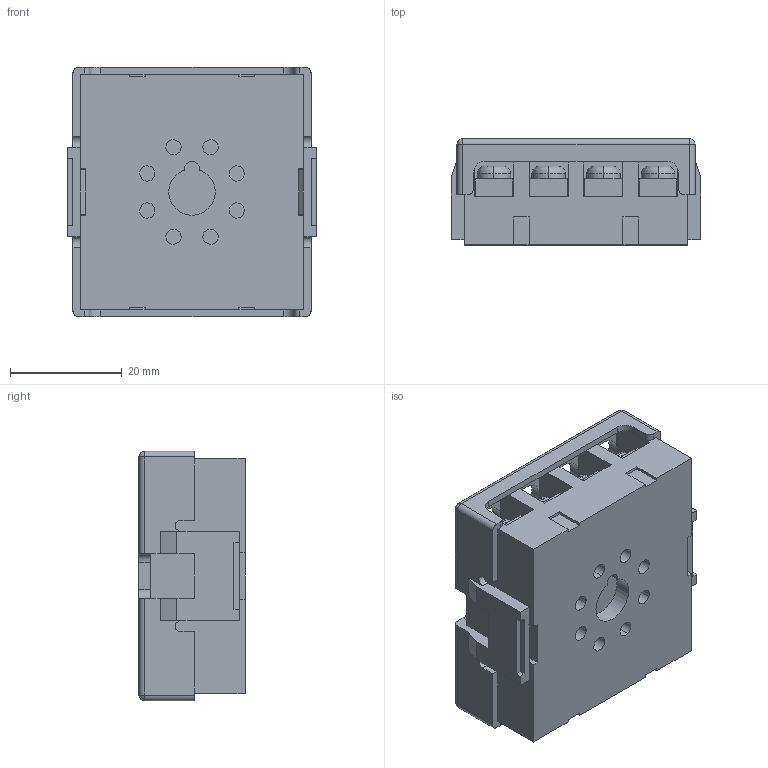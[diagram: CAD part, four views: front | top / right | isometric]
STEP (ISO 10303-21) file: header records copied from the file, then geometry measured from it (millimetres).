
FILE_DESCRIPTION (( 'STEP AP214' ), '1' );
FILE_NAME ('SR6P-M08G.STEP', '2020-08-19T04:49:23', ( '' ), ( '' ), 'SwSTEP 2.0', 'SolidWorks 2019', '' );
FILE_SCHEMA (( 'AUTOMOTIVE_DESIGN' ));
Length unit declared in the file: millimetre
Products named in the file (3): SR6P-M08G_蹬怮椔; SR6P-TERM-CV-8P_蹬怮椔; SR6P-M08G
Assembly tree (2 placements, depth 2):
  SR6P-M08G
    SR6P-M08G_蹬怮椔
    SR6P-TERM-CV-8P_蹬怮椔
Bounding box: 44.6 x 19 x 44.6 mm (x, y, z)
Volume: 30239.1 mm3; surface area: 14333.1 mm2
Topology: 2 solids, 2 shells, 292 faces, 810 edges, 528 vertices
Faces by surface type: plane 180, cylinder 92, bspline 20
Entity records: 9688 total; most frequent: CARTESIAN_POINT 2107, ORIENTED_EDGE 1612, DIRECTION 1508, EDGE_CURVE 806, LINE 578, VECTOR 578, VERTEX_POINT 528, AXIS2_PLACEMENT_3D 465
